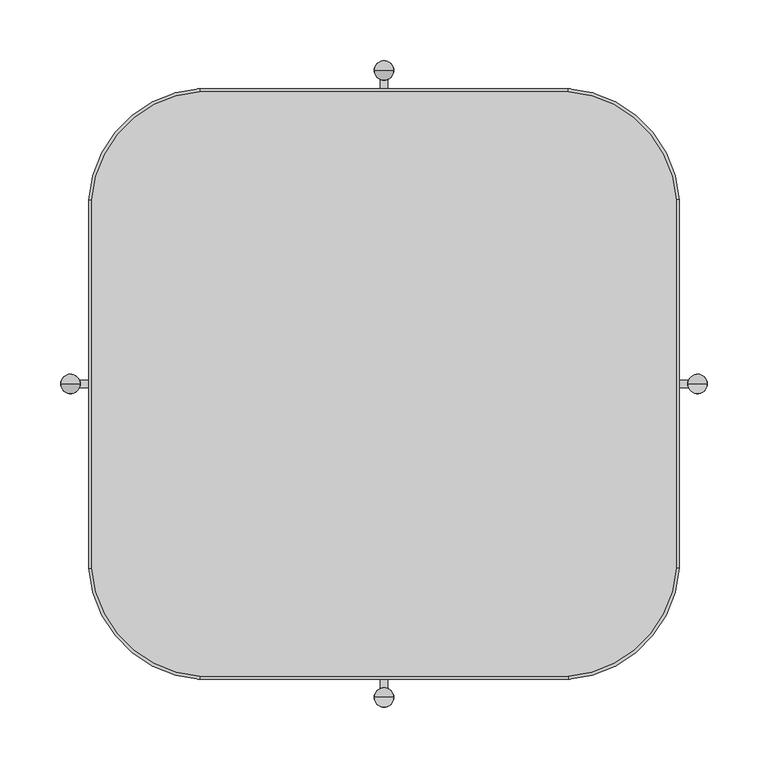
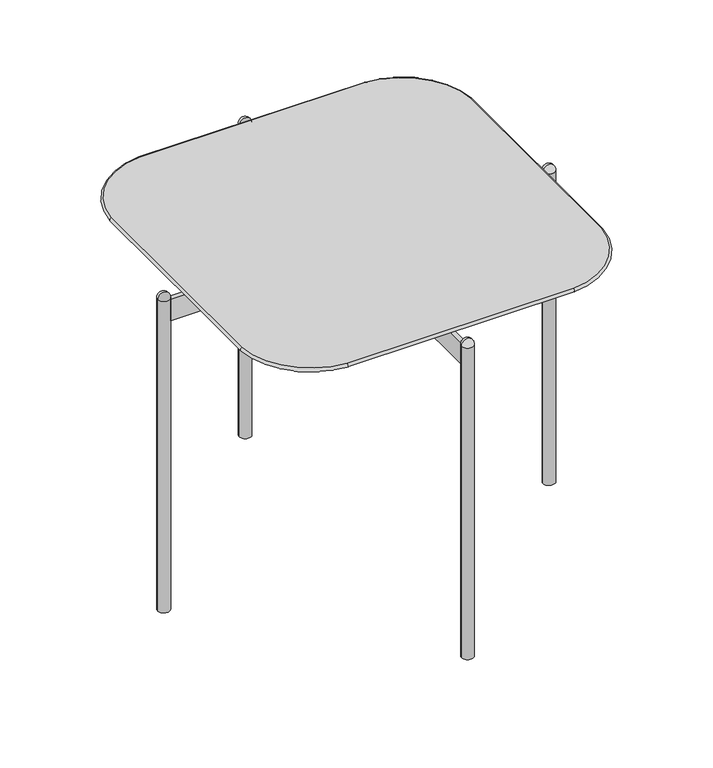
"""IFC4 building model written with IfcOpenShell, lengths in millimetres: furniture geometry, RECTANGULAR TABLE_H=45 : EI145B055050A_L."""

from ifc_helpers import new_model, si_unit, point, frame, frame_2d, origin, origin_with_axes, origin_2d, place, context, project, spatial, polyline, circle_curve, ellipse_curve, trimmed, segment, composite_curve, outline, extrude, source, transform, mapped, element, save
from ifc_brep_helpers import plane_surface, revolved_surface, advanced_brep


def furniture_3b859df5(model_context):
    return source(origin(), model_context, "Body", "SolidModel", [
        advanced_brep(
        [(-151.5352053, 240.3960668, 456.6939464), (-240.3960667, 151.5352053, 456.6939464), (-240.3960667, -151.5352052, 456.6939464), (-151.5352052, -240.3960667, 456.6939464), (151.5352053, -240.3960667, 456.6939464), (240.3960668, -151.5352052, 456.6939464), (240.3960668, 151.5352053, 456.6939464), (151.5352053, 240.3960668, 456.6939464), (-206.3711893, 149.2440678, 437.6939464), (-149.2440678, 206.3711893, 437.6939464), (149.2440678, 206.3711893, 437.6939464), (206.3711893, 149.2440678, 437.6939464), (206.3711893, -149.2440677, 437.6939464), (149.2440678, -206.3711893, 437.6939464), (-149.2440677, -206.3711893, 437.6939464), (-206.3711893, -149.2440677, 437.6939464), (-241.2735449, 151.5942922, 451.8273473), (-151.5942921, 241.273545, 451.8273473), (-241.2735449, -151.5942921, 451.8273473), (-151.5942921, -241.2735449, 451.8273473), (151.5942921, -241.2735449, 451.8273473), (241.273545, -151.5942921, 451.8273473), (241.273545, 151.5942921, 451.8273473), (151.5942921, 241.273545, 451.8273473)],
        [
            (0, 1, circle_curve(frame((-145.119559, 145.119559, 456.6939464), z_axis=(0.0, 0.0, 1.0), x_axis=(-0.06718498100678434, 0.997740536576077, 0.0)), 95.492269)),
            (1, 2, circle_curve(frame((2010.0000004, 0.0, 456.6939464), z_axis=(0.0, 0.0, 1.0), x_axis=(-0.9977405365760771, 0.06718498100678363, 0.0)), 2255.4922694)),
            (2, 3, circle_curve(frame((-145.1195589, -145.1195589, 456.6939464), z_axis=(0.0, 0.0, 1.0), x_axis=(-0.9977405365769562, -0.06718498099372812, 0.0)), 95.492269)),
            (3, 4, circle_curve(frame((0.0, 2010.0000004, 456.6939464), z_axis=(0.0, 0.0, 1.0), x_axis=(-0.06718498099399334, -0.9977405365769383, 0.0)), 2255.4922694)),
            (4, 5, circle_curve(frame((145.119559, -145.1195589, 456.6939464), z_axis=(0.0, 0.0, 1.0), x_axis=(0.06718498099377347, -0.997740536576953, 0.0)), 95.492269)),
            (5, 6, circle_curve(frame((-2010.0000004, 0.0, 456.6939464), z_axis=(0.0, 0.0, 1.0), x_axis=(0.9977405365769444, -0.0671849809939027, 0.0)), 2255.4922694)),
            (6, 7, circle_curve(frame((145.119559, 145.119559, 456.6939464), z_axis=(0.0, 0.0, 1.0), x_axis=(0.9977405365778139, 0.06718498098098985, 0.0)), 95.4922691)),
            (7, 0, circle_curve(frame((0.0, -2010.0000004, 456.6939464), z_axis=(0.0, 0.0, 1.0), x_axis=(0.06718498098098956, 0.9977405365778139, 0.0)), 2255.4922694)),
            (8, 9, circle_curve(frame((-145.119559, 145.119559, 437.6939464), z_axis=(0.0, 0.0, -1.0), x_axis=(-0.06718498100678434, 0.997740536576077, 0.0)), 61.3903395)),
            (9, 10, circle_curve(frame((0.0, -2010.0000004, 437.6939464), z_axis=(0.0, 0.0, -1.0), x_axis=(0.06718498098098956, 0.9977405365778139, 0.0)), 2221.3903399)),
            (10, 11, circle_curve(frame((145.119559, 145.119559, 437.6939464), z_axis=(0.0, 0.0, -1.0), x_axis=(0.9977405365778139, 0.06718498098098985, 0.0)), 61.3903396)),
            (11, 12, circle_curve(frame((-2010.0000004, 0.0, 437.6939464), z_axis=(0.0, 0.0, -1.0), x_axis=(0.9977405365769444, -0.0671849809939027, 0.0)), 2221.3903399)),
            (12, 13, circle_curve(frame((145.119559, -145.1195589, 437.6939464), z_axis=(0.0, 0.0, -1.0), x_axis=(0.06718498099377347, -0.997740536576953, 0.0)), 61.3903396)),
            (13, 14, circle_curve(frame((0.0, 2010.0000004, 437.6939464), z_axis=(0.0, 0.0, -1.0), x_axis=(-0.06718498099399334, -0.9977405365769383, 0.0)), 2221.3903399)),
            (14, 15, circle_curve(frame((-145.1195589, -145.1195589, 437.6939464), z_axis=(0.0, 0.0, -1.0), x_axis=(-0.9977405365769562, -0.06718498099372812, 0.0)), 61.3903396)),
            (15, 8, circle_curve(frame((2010.0000004, 0.0, 437.6939464), z_axis=(0.0, 0.0, -1.0), x_axis=(-0.9977405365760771, 0.06718498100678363, 0.0)), 2221.3903399)),
            (16, 1, circle_curve(frame((-240.3960667, 151.5352053, 454.1811807), z_axis=(0.06718498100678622, 0.9977405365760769, 0.0), x_axis=(0.9977405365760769, -0.06718498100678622, 0.0)), 2.5127656)),
            (0, 17, circle_curve(frame((-151.5352053, 240.3960668, 454.1811807), z_axis=(-0.997740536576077, -0.06718498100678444, 0.0), x_axis=(0.06718498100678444, -0.997740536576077, 0.0)), 2.5127656)),
            (17, 16, circle_curve(frame((-145.119559, 145.119559, 451.8273473), z_axis=(0.0, 0.0, 1.0), x_axis=(-0.06718498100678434, 0.997740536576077, 0.0)), 96.3717344)),
            (17, 9),
            (8, 16),
            (16, 18, circle_curve(frame((2010.0000004, 0.0, 451.8273473), z_axis=(0.0, 0.0, 1.0), x_axis=(-0.9977405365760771, 0.06718498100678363, 0.0)), 2256.3717348)),
            (18, 2, circle_curve(frame((-240.3960667, -151.5352052, 454.1811807), z_axis=(-0.06718498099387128, 0.9977405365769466, 0.0), x_axis=(0.9977405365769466, 0.06718498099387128, 0.0)), 2.5127656)),
            (15, 18),
            (18, 19, circle_curve(frame((-145.1195589, -145.1195589, 451.8273473), z_axis=(0.0, 0.0, 1.0), x_axis=(-0.9977405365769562, -0.06718498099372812, 0.0)), 96.3717344)),
            (19, 3, circle_curve(frame((-151.5352052, -240.3960667, 454.1811807), z_axis=(-0.9977405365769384, 0.06718498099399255, 0.0), x_axis=(0.06718498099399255, 0.9977405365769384, 0.0)), 2.5127656)),
            (14, 19),
            (19, 20, circle_curve(frame((0.0, 2010.0000004, 451.8273473), z_axis=(0.0, 0.0, 1.0), x_axis=(-0.06718498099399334, -0.9977405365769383, 0.0)), 2256.3717348)),
            (20, 4, circle_curve(frame((151.5352053, -240.3960667, 454.1811807), z_axis=(-0.997740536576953, -0.06718498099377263, 0.0), x_axis=(-0.06718498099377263, 0.997740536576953, 0.0)), 2.5127656)),
            (13, 20),
            (20, 21, circle_curve(frame((145.119559, -145.1195589, 451.8273473), z_axis=(0.0, 0.0, 1.0), x_axis=(0.06718498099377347, -0.997740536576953, 0.0)), 96.3717344)),
            (21, 5, circle_curve(frame((240.3960668, -151.5352052, 454.1811807), z_axis=(-0.06718498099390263, -0.9977405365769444, 0.0), x_axis=(-0.9977405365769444, 0.06718498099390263, 0.0)), 2.5127656)),
            (12, 21),
            (21, 22, circle_curve(frame((-2010.0000004, 0.0, 451.8273473), z_axis=(0.0, 0.0, 1.0), x_axis=(0.9977405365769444, -0.0671849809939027, 0.0)), 2256.3717348)),
            (22, 6, circle_curve(frame((240.3960668, 151.5352053, 454.1811807), z_axis=(0.0671849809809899, -0.9977405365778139, 0.0), x_axis=(-0.9977405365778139, -0.0671849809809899, 0.0)), 2.5127656)),
            (11, 22),
            (22, 23, circle_curve(frame((145.119559, 145.119559, 451.8273473), z_axis=(0.0, 0.0, 1.0), x_axis=(0.9977405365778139, 0.06718498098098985, 0.0)), 96.3717344)),
            (23, 7, circle_curve(frame((151.5352053, 240.3960668, 454.1811807), z_axis=(0.997740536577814, -0.06718498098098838, 0.0), x_axis=(-0.06718498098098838, -0.997740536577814, 0.0)), 2.5127656)),
            (10, 23),
            (23, 17, circle_curve(frame((0.0, -2010.0000004, 451.8273473), z_axis=(0.0, 0.0, 1.0), x_axis=(0.06718498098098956, 0.9977405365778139, 0.0)), 2256.3717348)),
        ],
        [
            plane_surface(frame((4269.0000009, 0.0, 456.6939464), z_axis=(0.0, 0.0, 1.0), x_axis=(0.0, 1.0, 0.0))),
            plane_surface(frame((4269.0000009, 0.0, 437.6939464), z_axis=(0.0, 0.0, -1.0), x_axis=(0.0, -1.0, 0.0))),
            revolved_surface(trimmed(ellipse_curve(frame((-151.5352053, 240.3960668, 454.1811807), z_axis=(0.997740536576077, 0.06718498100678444, 0.0), x_axis=(0.06718498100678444, -0.997740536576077, 0.0)), 2.5127656, 2.5127656), [point((-151.5942921, 241.273545, 451.8273473))], [point((-151.5352053, 240.3960668, 456.6939464))], True, "CARTESIAN"), (-145.119559, 145.119559, 437.6939464), (0.0, 0.0, 1.0)),
            revolved_surface(polyline([(-149.2440678, 206.3711893, 437.6939464), (-151.5942921, 241.273545, 451.8273473)]), (-145.119559, 145.119559, 437.6939464), (0.0, 0.0, 1.0)),
            revolved_surface(trimmed(ellipse_curve(frame((-240.3960667, 151.5352053, 454.1811807), z_axis=(0.0671849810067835, 0.9977405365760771, 0.0), x_axis=(0.9977405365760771, -0.0671849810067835, 0.0)), 2.5127656, 2.5127656), [point((-241.2735449, 151.5942922, 451.8273473))], [point((-240.3960667, 151.5352053, 456.6939464))], True, "CARTESIAN"), (2010.0000004, 0.0, 437.6939464), (0.0, 0.0, 1.0)),
            revolved_surface(polyline([(-206.3711893, 149.2440678, 437.6939464), (-241.2735449, 151.5942922, 451.8273473)]), (2010.0000004, 0.0, 437.6939464), (0.0, 0.0, 1.0)),
            revolved_surface(trimmed(ellipse_curve(frame((-240.3960667, -151.5352052, 454.1811807), z_axis=(-0.06718498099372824, 0.9977405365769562, 0.0), x_axis=(0.9977405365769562, 0.06718498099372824, 0.0)), 2.5127656, 2.5127656), [point((-241.2735449, -151.5942921, 451.8273473))], [point((-240.3960667, -151.5352052, 456.6939464))], True, "CARTESIAN"), (-145.1195589, -145.1195589, 437.6939464), (0.0, 0.0, 1.0)),
            revolved_surface(polyline([(-206.3711893, -149.2440677, 437.6939464), (-241.2735449, -151.5942921, 451.8273473)]), (-145.1195589, -145.1195589, 437.6939464), (0.0, 0.0, 1.0)),
            revolved_surface(trimmed(ellipse_curve(frame((-151.5352052, -240.3960667, 454.1811807), z_axis=(-0.9977405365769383, 0.06718498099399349, 0.0), x_axis=(0.06718498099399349, 0.9977405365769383, 0.0)), 2.5127656, 2.5127656), [point((-151.5942921, -241.2735449, 451.8273473))], [point((-151.5352052, -240.3960667, 456.6939464))], True, "CARTESIAN"), (0.0, 2010.0000004, 437.6939464), (0.0, 0.0, 1.0)),
            revolved_surface(polyline([(-149.2440677, -206.3711893, 437.6939464), (-151.5942921, -241.2735449, 451.8273473)]), (0.0, 2010.0000004, 437.6939464), (0.0, 0.0, 1.0)),
            revolved_surface(trimmed(ellipse_curve(frame((151.5352053, -240.3960667, 454.1811807), z_axis=(-0.997740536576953, -0.06718498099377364, 0.0), x_axis=(-0.06718498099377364, 0.997740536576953, 0.0)), 2.5127656, 2.5127656), [point((151.5942921, -241.2735449, 451.8273473))], [point((151.5352053, -240.3960667, 456.6939464))], True, "CARTESIAN"), (145.119559, -145.1195589, 437.6939464), (0.0, 0.0, 1.0)),
            revolved_surface(polyline([(149.2440678, -206.3711893, 437.6939464), (151.5942921, -241.2735449, 451.8273473)]), (145.119559, -145.1195589, 437.6939464), (0.0, 0.0, 1.0)),
            revolved_surface(trimmed(ellipse_curve(frame((240.3960668, -151.5352052, 454.1811807), z_axis=(-0.06718498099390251, -0.9977405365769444, 0.0), x_axis=(-0.9977405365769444, 0.06718498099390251, 0.0)), 2.5127656, 2.5127656), [point((241.273545, -151.5942921, 451.8273473))], [point((240.3960668, -151.5352052, 456.6939464))], True, "CARTESIAN"), (-2010.0000004, 0.0, 437.6939464), (0.0, 0.0, 1.0)),
            revolved_surface(polyline([(206.3711893, -149.2440677, 437.6939464), (241.273545, -151.5942921, 451.8273473)]), (-2010.0000004, 0.0, 437.6939464), (0.0, 0.0, 1.0)),
            revolved_surface(trimmed(ellipse_curve(frame((240.3960668, 151.5352053, 454.1811807), z_axis=(0.06718498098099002, -0.9977405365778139, 0.0), x_axis=(-0.9977405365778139, -0.06718498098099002, 0.0)), 2.5127656, 2.5127656), [point((241.273545, 151.5942921, 451.8273473))], [point((240.3960668, 151.5352053, 456.6939464))], True, "CARTESIAN"), (145.119559, 145.119559, 437.6939464), (0.0, 0.0, 1.0)),
            revolved_surface(polyline([(206.3711893, 149.2440678, 437.6939464), (241.273545, 151.5942921, 451.8273473)]), (145.119559, 145.119559, 437.6939464), (0.0, 0.0, 1.0)),
            revolved_surface(trimmed(ellipse_curve(frame((151.5352053, 240.3960668, 454.1811807), z_axis=(0.9977405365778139, -0.0671849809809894, 0.0), x_axis=(-0.0671849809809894, -0.9977405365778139, 0.0)), 2.5127656, 2.5127656), [point((151.5942921, 241.273545, 451.8273473))], [point((151.5352053, 240.3960668, 456.6939464))], True, "CARTESIAN"), (0.0, -2010.0000004, 437.6939464), (0.0, 0.0, 1.0)),
            revolved_surface(polyline([(149.2440678, 206.3711893, 437.6939464), (151.5942921, 241.273545, 451.8273473)]), (0.0, -2010.0000004, 437.6939464), (0.0, 0.0, 1.0)),
        ],
        [
            (0, [[1, 2, 3, 4, 5, 6, 7, 8]]),
            (1, [[9, 10, 11, 12, 13, 14, 15, 16]]),
            (2, [[17, -1, 18, 19]]),
            (3, [[-19, 20, -9, 21]]),
            (4, [[-17, 22, 23, -2]]),
            (5, [[-21, -16, 24, -22]]),
            (6, [[-23, 25, 26, -3]]),
            (7, [[-24, -15, 27, -25]]),
            (8, [[-26, 28, 29, -4]]),
            (9, [[-27, -14, 30, -28]]),
            (10, [[-29, 31, 32, -5]]),
            (11, [[-30, -13, 33, -31]]),
            (12, [[-32, 34, 35, -6]]),
            (13, [[-33, -12, 36, -34]]),
            (14, [[-35, 37, 38, -7]]),
            (15, [[-36, -11, 39, -37]]),
            (16, [[-18, -8, -38, 40]]),
            (17, [[-20, -40, -39, -10]]),
        ],
    ),
        advanced_brep(
        [(-8.0, -257.95, 441.1666667), (8.0, -257.95, 441.1666667), (0.0, -257.95, 449.1666667), (0.0, -257.95, 441.1666667)],
        [
            (0, 1, circle_curve(frame((0.0, -257.95, 441.1666667), z_axis=(0.0, 0.0, 1.0), x_axis=(1.0, 0.0, 0.0)), 8.0)),
            (1, 2, circle_curve(frame((0.0, -257.95, 441.1666667), z_axis=(0.0, -1.0, 0.0), x_axis=(1.0, 0.0, 0.0)), 8.0)),
            (2, 0, circle_curve(frame((0.0, -257.95, 441.1666667), z_axis=(0.0, -1.0, 0.0), x_axis=(-1.0, 0.0, 0.0)), 8.0)),
            (1, 0, circle_curve(frame((0.0, -257.95, 441.1666667), z_axis=(0.0, 0.0, 1.0), x_axis=(1.0, 0.0, 0.0)), 8.0)),
            (3, 1),
            (0, 3),
        ],
        [
            revolved_surface(trimmed(ellipse_curve(frame((0.0, -257.95, 441.1666667), z_axis=(0.0, 1.0, 0.0), x_axis=(1.0, 0.0, 0.0)), 8.0, 8.0), [point((0.0, -257.95, 449.1666667))], [point((8.0, -257.95, 441.1666667))], True, "CARTESIAN"), (0.0, -257.95, 2638.4), (0.0, 0.0, -1.0)),
            plane_surface(frame((0.0, -257.95, 441.1666667), z_axis=(0.0, 0.0, -1.0), x_axis=(1.0, 0.0, 0.0))),
        ],
        [
            (0, [[1, 2, 3]]),
            (0, [[4, -3, -2]]),
            (1, [[5, -1, 6]]),
            (1, [[-6, -4, -5]]),
        ],
    ),
        advanced_brep(
        [(265.95, 0.0, 441.1666667), (249.95, 0.0, 441.1666667), (257.95, 0.0, 449.1666667), (257.95, 0.0, 441.1666667)],
        [
            (0, 1, circle_curve(frame((257.95, 0.0, 441.1666667), z_axis=(0.0, 0.0, 1.0), x_axis=(-1.0, 0.0, 0.0)), 8.0)),
            (1, 2, circle_curve(frame((257.95, 0.0, 441.1666667), z_axis=(0.0, 1.0, 0.0), x_axis=(-1.0, 0.0, 0.0)), 8.0)),
            (2, 0, circle_curve(frame((257.95, 0.0, 441.1666667), z_axis=(0.0, 1.0, 0.0), x_axis=(1.0, 0.0, 0.0)), 8.0)),
            (1, 0, circle_curve(frame((257.95, 0.0, 441.1666667), z_axis=(0.0, 0.0, 1.0), x_axis=(-1.0, 0.0, 0.0)), 8.0)),
            (3, 1),
            (0, 3),
        ],
        [
            revolved_surface(trimmed(ellipse_curve(frame((257.95, 0.0, 441.1666667), z_axis=(0.0, -1.0, 0.0), x_axis=(-1.0, 0.0, 0.0)), 8.0, 8.0), [point((257.95, 0.0, 449.1666667))], [point((249.95, 0.0, 441.1666667))], True, "CARTESIAN"), (257.95, 0.0, 2638.4), (0.0, 0.0, -1.0)),
            plane_surface(frame((257.95, 0.0, 441.1666667), z_axis=(0.0, 0.0, -1.0), x_axis=(-1.0, 0.0, 0.0))),
        ],
        [
            (0, [[1, 2, 3]]),
            (0, [[4, -3, -2]]),
            (1, [[5, -1, 6]]),
            (1, [[-6, -4, -5]]),
        ],
    ),
        advanced_brep(
        [(0.0, 257.95, 449.1666667), (8.0, 257.95, 441.1666667), (-8.0, 257.95, 441.1666667), (0.0, 257.95, 441.1666667)],
        [
            (0, 1, circle_curve(frame((0.0, 257.95, 441.1666667), z_axis=(0.0, 1.0, 0.0), x_axis=(1.0, 0.0, 0.0)), 8.0)),
            (1, 2, circle_curve(frame((0.0, 257.95, 441.1666667), z_axis=(0.0, 0.0, 1.0), x_axis=(1.0, 0.0, 0.0)), 8.0)),
            (2, 0, circle_curve(frame((0.0, 257.95, 441.1666667), z_axis=(0.0, 1.0, 0.0), x_axis=(-1.0, 0.0, 0.0)), 8.0)),
            (2, 1, circle_curve(frame((0.0, 257.95, 441.1666667), z_axis=(0.0, 0.0, 1.0), x_axis=(1.0, 0.0, 0.0)), 8.0)),
            (1, 3),
            (3, 2),
        ],
        [
            revolved_surface(trimmed(ellipse_curve(frame((0.0, 257.95, 441.1666667), z_axis=(0.0, -1.0, 0.0), x_axis=(1.0, 0.0, 0.0)), 8.0, 8.0), [point((8.0, 257.95, 441.1666667))], [point((0.0, 257.95, 449.1666667))], True, "CARTESIAN"), (0.0, 257.95, 2638.4), (0.0, 0.0, 1.0)),
            plane_surface(frame((0.0, 257.95, 441.1666667), z_axis=(0.0, 0.0, -1.0), x_axis=(1.0, 0.0, 0.0))),
        ],
        [
            (0, [[1, 2, 3]]),
            (0, [[-3, 4, -1]]),
            (1, [[-2, 5, 6]]),
            (1, [[-4, -6, -5]]),
        ],
    ),
        advanced_brep(
        [(-257.95, 0.0, 449.1666667), (-249.95, 0.0, 441.1666667), (-265.95, 0.0, 441.1666667), (-257.95, 0.0, 441.1666667)],
        [
            (0, 1, circle_curve(frame((-257.95, 0.0, 441.1666667), z_axis=(0.0, 1.0, 0.0), x_axis=(1.0, 0.0, 0.0)), 8.0)),
            (1, 2, circle_curve(frame((-257.95, 0.0, 441.1666667), z_axis=(0.0, 0.0, 1.0), x_axis=(1.0, 0.0, 0.0)), 8.0)),
            (2, 0, circle_curve(frame((-257.95, 0.0, 441.1666667), z_axis=(0.0, 1.0, 0.0), x_axis=(-1.0, 0.0, 0.0)), 8.0)),
            (2, 1, circle_curve(frame((-257.95, 0.0, 441.1666667), z_axis=(0.0, 0.0, 1.0), x_axis=(1.0, 0.0, 0.0)), 8.0)),
            (1, 3),
            (3, 2),
        ],
        [
            revolved_surface(trimmed(ellipse_curve(frame((-257.95, 0.0, 441.1666667), z_axis=(0.0, -1.0, 0.0), x_axis=(1.0, 0.0, 0.0)), 8.0, 8.0), [point((-249.95, 0.0, 441.1666667))], [point((-257.95, 0.0, 449.1666667))], True, "CARTESIAN"), (-257.95, 0.0, 2638.4), (0.0, 0.0, 1.0)),
            plane_surface(frame((-257.95, 0.0, 441.1666667), z_axis=(0.0, 0.0, -1.0), x_axis=(1.0, 0.0, 0.0))),
        ],
        [
            (0, [[1, 2, 3]]),
            (0, [[-3, 4, -1]]),
            (1, [[-2, 5, 6]]),
            (1, [[-4, -6, -5]]),
        ],
    ),
        extrude(outline(composite_curve([segment(trimmed(circle_curve(origin_2d(), 23.0), [point((3.0, 22.8035085))], [point((-3.0, 22.8035085))], True, "CARTESIAN"), True, "CONTINUOUS"), segment(polyline([(-3.0, 22.8035085), (-3.0, 250.5338015)]), True, "CONTINUOUS"), segment(trimmed(circle_curve(frame_2d((0.0, 257.95)), 8.0), [point((-3.0, 250.5338015))], [point((3.0, 250.5338015))], True, "CARTESIAN"), True, "CONTINUOUS"), segment(polyline([(3.0, 250.5338015), (3.0, 22.8035085)]), True, "CONTINUOUS")], self_intersect=False)), frame((0.0, 0.0, 407.6939464), z_axis=(0.0, 0.0, 1.0), x_axis=(1.0, 0.0, 0.0)), (0.0, 0.0, 1.0), 30.0),
        extrude(outline(composite_curve([segment(trimmed(circle_curve(origin_2d(), 23.0), [point((-3.0, -22.8035085))], [point((3.0, -22.8035085))], True, "CARTESIAN"), True, "CONTINUOUS"), segment(polyline([(3.0, -22.8035085), (3.0, -250.5338015)]), True, "CONTINUOUS"), segment(trimmed(circle_curve(frame_2d((0.0, -257.95)), 8.0), [point((3.0, -250.5338015))], [point((-3.0, -250.5338015))], True, "CARTESIAN"), True, "CONTINUOUS"), segment(polyline([(-3.0, -250.5338015), (-3.0, -22.8035085)]), True, "CONTINUOUS")], self_intersect=False)), frame((0.0, 0.0, 407.6939464), z_axis=(0.0, 0.0, 1.0), x_axis=(1.0, 0.0, 0.0)), (0.0, 0.0, 1.0), 30.0),
        extrude(outline(composite_curve([segment(trimmed(circle_curve(origin_2d(), 23.0), [point((-22.8035085, 3.0))], [point((-22.8035085, -3.0))], True, "CARTESIAN"), True, "CONTINUOUS"), segment(polyline([(-22.8035085, -3.0), (-250.5338015, -3.0)]), True, "CONTINUOUS"), segment(trimmed(circle_curve(frame_2d((-257.95, 0.0)), 8.0), [point((-250.5338015, -3.0))], [point((-249.95, 0.0))], True, "CARTESIAN"), True, "CONTINUOUS"), segment(trimmed(circle_curve(frame_2d((-257.95, 0.0)), 8.0), [point((-249.95, 0.0))], [point((-250.5338015, 3.0))], True, "CARTESIAN"), True, "CONTINUOUS"), segment(polyline([(-250.5338015, 3.0), (-22.8035085, 3.0)]), True, "CONTINUOUS")], self_intersect=False)), frame((0.0, 0.0, 407.6939464), z_axis=(0.0, 0.0, 1.0), x_axis=(1.0, 0.0, 0.0)), (0.0, 0.0, 1.0), 30.0),
        extrude(outline(composite_curve([segment(trimmed(circle_curve(origin_2d(), 23.0), [point((22.8035085, -3.0))], [point((22.8035085, 3.0))], True, "CARTESIAN"), True, "CONTINUOUS"), segment(polyline([(22.8035085, 3.0), (250.5338015, 3.0)]), True, "CONTINUOUS"), segment(trimmed(circle_curve(frame_2d((257.95, 0.0)), 8.0), [point((250.5338015, 3.0))], [point((249.95, 0.0))], True, "CARTESIAN"), True, "CONTINUOUS"), segment(trimmed(circle_curve(frame_2d((257.95, 0.0)), 8.0), [point((249.95, 0.0))], [point((250.5338015, -3.0))], True, "CARTESIAN"), True, "CONTINUOUS"), segment(polyline([(250.5338015, -3.0), (22.8035085, -3.0)]), True, "CONTINUOUS")], self_intersect=False)), frame((0.0, 0.0, 407.6939464), z_axis=(0.0, 0.0, 1.0), x_axis=(1.0, 0.0, 0.0)), (0.0, 0.0, 1.0), 30.0),
        extrude(outline(composite_curve([segment(trimmed(circle_curve(origin_2d(), 23.0), [point((-23.0, 0.0))], [point((23.0, 0.0))], False, "CARTESIAN"), True, "CONTINUOUS"), segment(trimmed(circle_curve(origin_2d(), 23.0), [point((23.0, 0.0))], [point((-23.0, 0.0))], False, "CARTESIAN"), True, "CONTINUOUS")], self_intersect=False)), frame((0.0, 0.0, 407.6939464), z_axis=(0.0, 0.0, 1.0), x_axis=(1.0, 0.0, 0.0)), (0.0, 0.0, 1.0), 30.0),
        extrude(outline(composite_curve([segment(trimmed(circle_curve(frame_2d((0.0, 257.95)), 8.0), [point((-8.0, 257.95))], [point((8.0, 257.95))], False, "CARTESIAN"), True, "CONTINUOUS"), segment(trimmed(circle_curve(frame_2d((0.0, 257.95)), 8.0), [point((8.0, 257.95))], [point((-8.0, 257.95))], False, "CARTESIAN"), True, "CONTINUOUS")], self_intersect=False)), origin_with_axes(), (0.0, 0.0, 1.0), 441.1666667),
        extrude(outline(composite_curve([segment(trimmed(circle_curve(frame_2d((-257.95, 0.0)), 8.0), [point((-265.95, 0.0))], [point((-249.95, 0.0))], False, "CARTESIAN"), True, "CONTINUOUS"), segment(trimmed(circle_curve(frame_2d((-257.95, 0.0)), 8.0), [point((-249.95, 0.0))], [point((-265.95, 0.0))], False, "CARTESIAN"), True, "CONTINUOUS")], self_intersect=False)), origin_with_axes(), (0.0, 0.0, 1.0), 441.1666667),
        extrude(outline(composite_curve([segment(trimmed(circle_curve(frame_2d((0.0, -257.95)), 8.0), [point((-8.0, -257.95))], [point((8.0, -257.95))], False, "CARTESIAN"), True, "CONTINUOUS"), segment(trimmed(circle_curve(frame_2d((0.0, -257.95)), 8.0), [point((8.0, -257.95))], [point((-8.0, -257.95))], False, "CARTESIAN"), True, "CONTINUOUS")], self_intersect=False)), origin_with_axes(), (0.0, 0.0, 1.0), 441.1666667),
        extrude(outline(composite_curve([segment(trimmed(circle_curve(frame_2d((257.95, 0.0)), 8.0), [point((249.95, 0.0))], [point((265.95, 0.0))], False, "CARTESIAN"), True, "CONTINUOUS"), segment(trimmed(circle_curve(frame_2d((257.95, 0.0)), 8.0), [point((265.95, 0.0))], [point((249.95, 0.0))], False, "CARTESIAN"), True, "CONTINUOUS")], self_intersect=False)), origin_with_axes(), (0.0, 0.0, 1.0), 441.1666667),
    ])


if __name__ == "__main__":
    model = new_model("IFC4")
    model_context = context("Model", 3, world=origin())
    ifc_project = project(units=[si_unit("LENGTHUNIT", "METRE", prefix="MILLI")], contexts=[model_context])
    site = spatial("IfcSite", under=ifc_project)
    building = spatial("IfcBuilding", under=site)
    placement = place(None, origin())
    furniture_shape = furniture_3b859df5(model_context)
    element("IfcFurniture", 1, ObjectType="RECTANGULAR TABLE_H=45 : EI145B055050A_L", at=placement, inside=building, context=model_context, shape_type="MappedRepresentation", body=[
        mapped(furniture_shape, transform((0.0, 0.0, 0.0), x_axis=(1.0, 0.0, 0.0), y_axis=(0.0, 1.0, 0.0), z_axis=(0.0, 0.0, 1.0))),
    ])
    save(model, "model.ifc")
